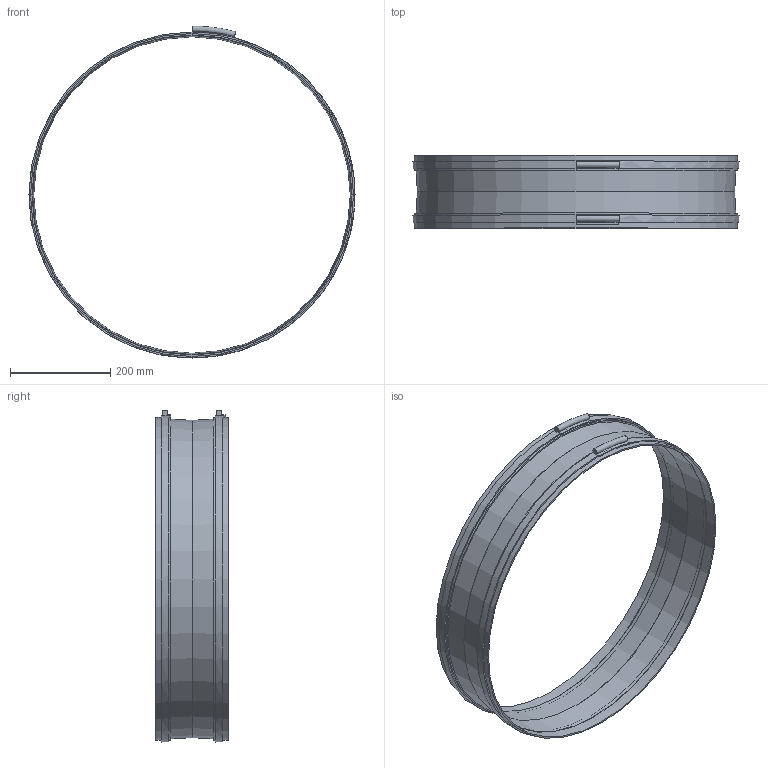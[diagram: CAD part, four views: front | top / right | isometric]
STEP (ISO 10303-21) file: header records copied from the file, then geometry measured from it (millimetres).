
FILE_DESCRIPTION(/* description */ (''),/* implementation_level */ '2;1');
FILE_NAME(/* name */ 'Z:\Output\FM_630_EX-01696-001.stp',/* time_stamp */ '2017-07-11T10:21:36+02:00',/* author */ ('jayeshpanchal'),/* organization */ (''),/* preprocessor_version */ 'ST-DEVELOPER v16.5',/* originating_system */ 'Autodesk Inventor 2017',/* authorisation */ '');
FILE_SCHEMA (('AUTOMOTIVE_DESIGN { 1 0 10303 214 3 1 1 }'));
Length unit declared in the file: millimetre
Products named in the file (1): FM-1
Bounding box: 652 x 145 x 663.98 mm (x, y, z)
Volume: 770015 mm3; surface area: 703432.5 mm2
Topology: 3 solids, 3 shells, 36 faces, 66 edges, 40 vertices
Faces by surface type: plane 16, cylinder 14, cone 4, torus 2
Full cylindrical faces by diameter (mm): 640 x4, 646 x4, 652 x2
Entity records: 883 total; most frequent: DIRECTION 162, CARTESIAN_POINT 129, ORIENTED_EDGE 108, AXIS2_PLACEMENT_3D 73, EDGE_LOOP 60, EDGE_CURVE 52, VERTEX_POINT 40, FACE_OUTER_BOUND 36
